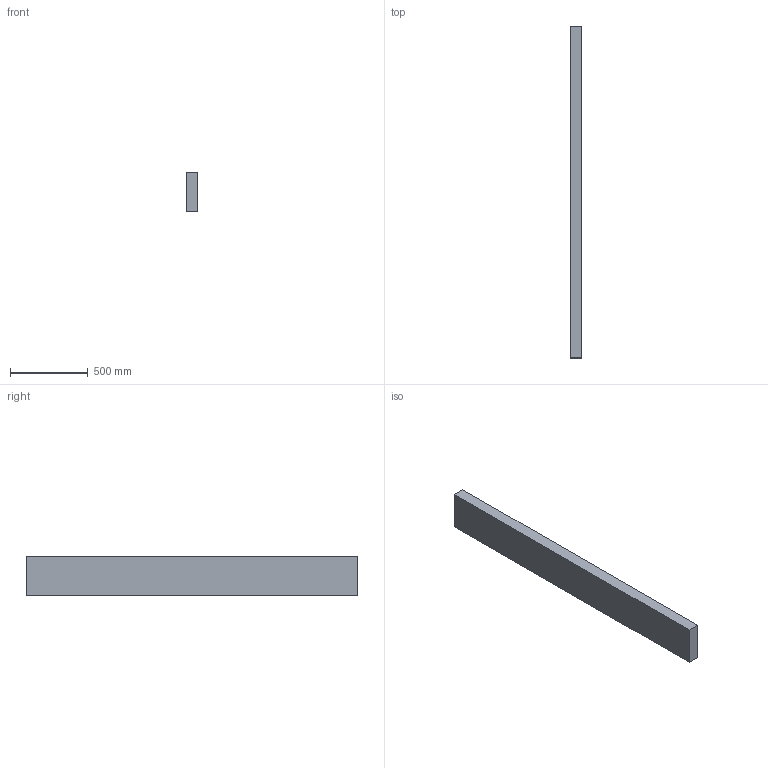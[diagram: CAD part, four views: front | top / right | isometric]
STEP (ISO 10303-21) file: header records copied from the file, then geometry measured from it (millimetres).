
FILE_DESCRIPTION(/* description */ (''),/* implementation_level */ '2;1');
FILE_NAME(/* name */ '3x10x84',/* time_stamp */ '2024-09-20T11:43:53-05:00',/* author */ (''),/* organization */ (''),/* preprocessor_version */ 'ST-DEVELOPER v19.2',/* originating_system */ 'Rhino 8.5',/* authorisation */ '');
FILE_SCHEMA (('CONFIG_CONTROL_DESIGN'));
Length unit declared in the file: inch
Products named in the file (1): Document
Bounding box: 76.2 x 2133.6 x 254 mm (x, y, z)
Volume: 41295401.3 mm3; surface area: 1447739 mm2
Topology: 1 solids, 1 shells, 6 faces, 12 edges, 8 vertices
Faces by surface type: plane 6
Entity records: 226 total; most frequent: CARTESIAN_POINT 40, ORIENTED_EDGE 24, EDGE_CURVE 12, B_SPLINE_CURVE_WITH_KNOTS 12, DIRECTION 10, VERTEX_POINT 8, AXIS2_PLACEMENT_3D 8, ORGANIZATION 7
